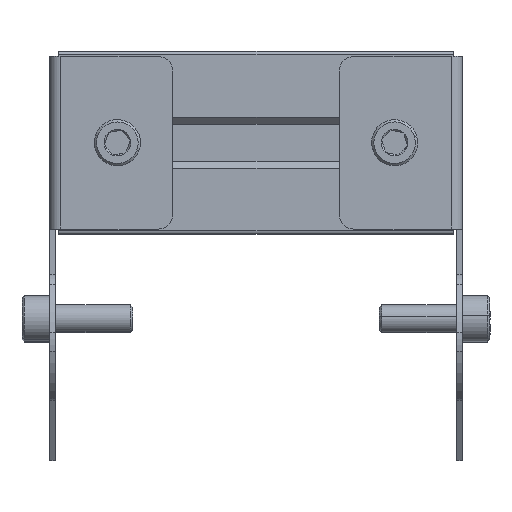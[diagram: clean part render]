
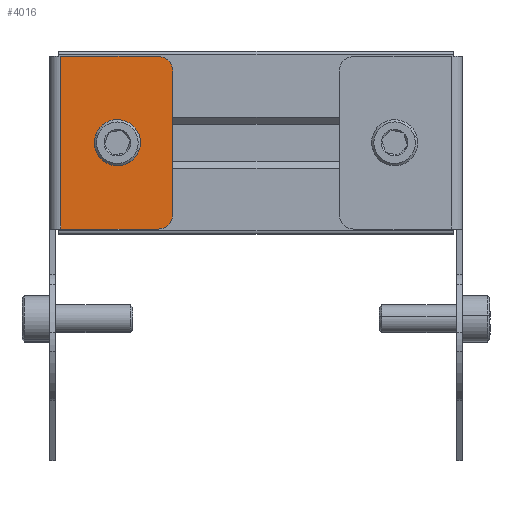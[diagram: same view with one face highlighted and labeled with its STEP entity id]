
A CAD part, top view. The second image highlights one B-rep face of the part: STEP entity #4016.
In plain terms, the highlighted planar face has unit normal (0, 0, 1) as drawn and (1, 0, 0) by its records, which use the part's own axes.
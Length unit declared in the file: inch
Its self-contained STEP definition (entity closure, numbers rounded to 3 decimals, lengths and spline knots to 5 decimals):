
#32 = DIRECTION ( 'NONE',  ( 1., 0., 0. ) ) ;
#188 = AXIS2_PLACEMENT_3D ( 'NONE', #575, #521, #3168 ) ;
#217 = VERTEX_POINT ( 'NONE', #4820 ) ;
#385 = VERTEX_POINT ( 'NONE', #1770 ) ;
#521 = DIRECTION ( 'NONE',  ( 1., 0., 0. ) ) ;
#557 = VERTEX_POINT ( 'NONE', #6590 ) ;
#575 = CARTESIAN_POINT ( 'NONE',  ( 2.62055, 0., 0. ) ) ;
#612 = CARTESIAN_POINT ( 'NONE',  ( 2.62055, 1.8586, -0.5297 ) ) ;
#828 = EDGE_CURVE ( 'NONE', #557, #2849, #1933, .T. ) ;
#971 = AXIS2_PLACEMENT_3D ( 'NONE', #7173, #1454, #3269 ) ;
#998 = ORIENTED_EDGE ( 'NONE', *, *, #2509, .F. ) ;
#1066 = VECTOR ( 'NONE', #3555, 39.37008 ) ;
#1086 = ORIENTED_EDGE ( 'NONE', *, *, #1977, .F. ) ;
#1132 = FACE_OUTER_BOUND ( 'NONE', #1775, .T. ) ;
#1299 = EDGE_CURVE ( 'NONE', #5504, #1677, #6175, .T. ) ;
#1454 = DIRECTION ( 'NONE',  ( 1., 0., 0. ) ) ;
#1642 = DIRECTION ( 'NONE',  ( 0., 0., 1. ) ) ;
#1669 = CARTESIAN_POINT ( 'NONE',  ( 2.62055, 1.1222, -1.002 ) ) ;
#1677 = VERTEX_POINT ( 'NONE', #6450 ) ;
#1770 = CARTESIAN_POINT ( 'NONE',  ( 2.62055, 1.8586, -0.65568 ) ) ;
#1775 = EDGE_LOOP ( 'NONE', ( #5669, #7084, #3413, #4398, #998, #7254 ) ) ;
#1933 = LINE ( 'NONE', #5591, #6865 ) ;
#1977 = EDGE_CURVE ( 'NONE', #6759, #385, #5973, .T. ) ;
#2073 = ORIENTED_EDGE ( 'NONE', *, *, #3428, .F. ) ;
#2156 = CARTESIAN_POINT ( 'NONE',  ( 2.62055, 2.47, -1.002 ) ) ;
#2335 = DIRECTION ( 'NONE',  ( 1., 0., 0. ) ) ;
#2509 = EDGE_CURVE ( 'NONE', #2778, #2849, #6846, .T. ) ;
#2510 = EDGE_CURVE ( 'NONE', #5504, #217, #5365, .T. ) ;
#2730 = VECTOR ( 'NONE', #1642, 39.37008 ) ;
#2778 = VERTEX_POINT ( 'NONE', #6488 ) ;
#2849 = VERTEX_POINT ( 'NONE', #5227 ) ;
#2874 = CARTESIAN_POINT ( 'NONE',  ( 2.62055, 2.595, -1.002 ) ) ;
#2877 = AXIS2_PLACEMENT_3D ( 'NONE', #3009, #4354, #7489 ) ;
#3000 = DIRECTION ( 'NONE',  ( 0., 0., -1. ) ) ;
#3009 = CARTESIAN_POINT ( 'NONE',  ( 2.62055, 1.8586, -0.5297 ) ) ;
#3155 = CIRCLE ( 'NONE', #7013, 0.12598 ) ;
#3168 = DIRECTION ( 'NONE',  ( 0., 0., -1. ) ) ;
#3269 = DIRECTION ( 'NONE',  ( 0., 0., -1. ) ) ;
#3413 = ORIENTED_EDGE ( 'NONE', *, *, #5499, .F. ) ;
#3428 = EDGE_CURVE ( 'NONE', #385, #6759, #3155, .T. ) ;
#3555 = DIRECTION ( 'NONE',  ( 0., -1., 0. ) ) ;
#3579 = CIRCLE ( 'NONE', #971, 0.125 ) ;
#3613 = CARTESIAN_POINT ( 'NONE',  ( 2.62055, 2.47, -0.877 ) ) ;
#3745 = AXIS2_PLACEMENT_3D ( 'NONE', #3613, #2335, #3000 ) ;
#4016 = ADVANCED_FACE ( 'NONE', ( #6534, #1132 ), #8302, .T. ) ;
#4354 = DIRECTION ( 'NONE',  ( 1., 0., 0. ) ) ;
#4398 = ORIENTED_EDGE ( 'NONE', *, *, #828, .T. ) ;
#4709 = CARTESIAN_POINT ( 'NONE',  ( 2.62055, 1.8586, -0.40372 ) ) ;
#4710 = CARTESIAN_POINT ( 'NONE',  ( 2.62055, 2.595, -1.002 ) ) ;
#4784 = DIRECTION ( 'NONE',  ( 0., 0., -1. ) ) ;
#4820 = CARTESIAN_POINT ( 'NONE',  ( 2.62055, 2.595, -0.877 ) ) ;
#4969 = DIRECTION ( 'NONE',  ( 0., -1., 0. ) ) ;
#5083 = DIRECTION ( 'NONE',  ( 0., 0., -1. ) ) ;
#5227 = CARTESIAN_POINT ( 'NONE',  ( 2.62055, 1.1222, -0.048 ) ) ;
#5365 = CIRCLE ( 'NONE', #3745, 0.125 ) ;
#5499 = EDGE_CURVE ( 'NONE', #557, #217, #8047, .T. ) ;
#5504 = VERTEX_POINT ( 'NONE', #2156 ) ;
#5591 = CARTESIAN_POINT ( 'NONE',  ( 2.62055, 0., -0.048 ) ) ;
#5669 = ORIENTED_EDGE ( 'NONE', *, *, #1299, .F. ) ;
#5973 = CIRCLE ( 'NONE', #2877, 0.12598 ) ;
#6175 = LINE ( 'NONE', #4710, #1066 ) ;
#6450 = CARTESIAN_POINT ( 'NONE',  ( 2.62055, 1.2472, -1.002 ) ) ;
#6488 = CARTESIAN_POINT ( 'NONE',  ( 2.62055, 1.1222, -0.877 ) ) ;
#6534 = FACE_BOUND ( 'NONE', #7671, .T. ) ;
#6590 = CARTESIAN_POINT ( 'NONE',  ( 2.62055, 2.595, -0.048 ) ) ;
#6759 = VERTEX_POINT ( 'NONE', #4709 ) ;
#6846 = LINE ( 'NONE', #1669, #2730 ) ;
#6865 = VECTOR ( 'NONE', #4969, 39.37008 ) ;
#7013 = AXIS2_PLACEMENT_3D ( 'NONE', #612, #32, #5083 ) ;
#7084 = ORIENTED_EDGE ( 'NONE', *, *, #2510, .T. ) ;
#7173 = CARTESIAN_POINT ( 'NONE',  ( 2.62055, 1.2472, -0.877 ) ) ;
#7254 = ORIENTED_EDGE ( 'NONE', *, *, #7720, .T. ) ;
#7489 = DIRECTION ( 'NONE',  ( 0., 0., -1. ) ) ;
#7671 = EDGE_LOOP ( 'NONE', ( #2073, #1086 ) ) ;
#7720 = EDGE_CURVE ( 'NONE', #2778, #1677, #3579, .T. ) ;
#7844 = VECTOR ( 'NONE', #4784, 39.37008 ) ;
#8047 = LINE ( 'NONE', #2874, #7844 ) ;
#8302 = PLANE ( 'NONE',  #188 ) ;
